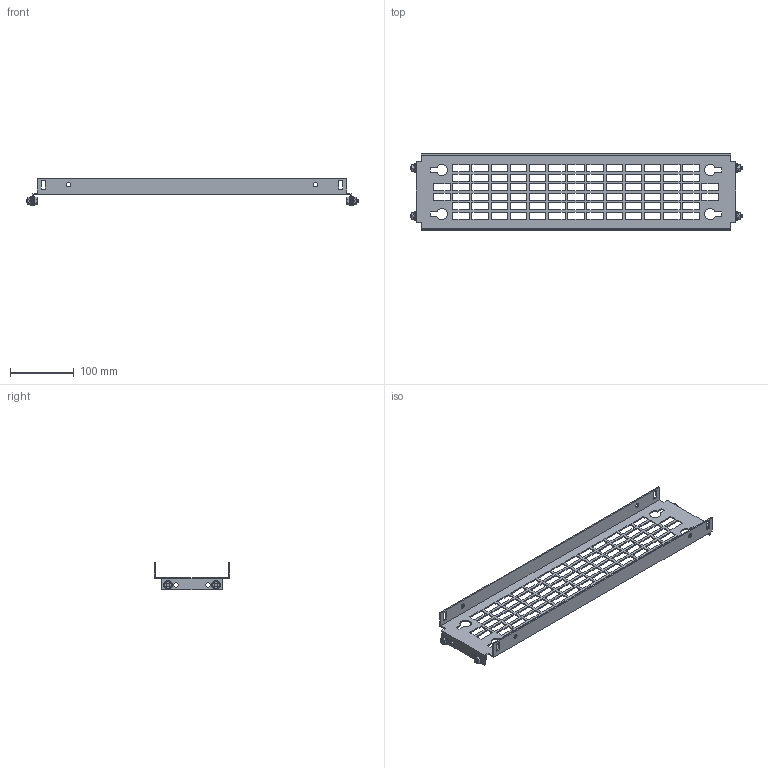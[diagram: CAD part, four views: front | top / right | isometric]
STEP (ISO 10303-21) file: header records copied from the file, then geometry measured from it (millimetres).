
FILE_DESCRIPTION(('Open CASCADE Model'),'2;1');
FILE_NAME('Open CASCADE Shape Model','2025-02-19T16:48:05',('Author'),( 'Open CASCADE'),'Open CASCADE STEP processor 7.8','Open CASCADE 7.8' ,'Unknown');
FILE_SCHEMA(('AUTOMOTIVE_DESIGN { 1 0 10303 214 1 1 1 1 }'));
Length unit declared in the file: millimetre
Products named in the file (4): Compound1; Solid1; Solid2; Solid3
Assembly tree (9 placements, depth 2):
  Compound1
    Solid1
    Solid2  x4
    Solid3  x4
Bounding box: 520 x 119 x 43 mm (x, y, z)
Volume: 125950.2 mm3; surface area: 141529.8 mm2
Topology: 9 solids, 9 shells, 618 faces, 1682 edges, 1086 vertices
Faces by surface type: plane 462, cone 68, bspline 48, cylinder 28, torus 12
Full cylindrical faces by diameter (mm): 5 x4, 6 x8, 7 x12
Entity records: 15856 total; most frequent: CARTESIAN_POINT 3295, ORIENTED_EDGE 2686, DIRECTION 2248, EDGE_CURVE 1343, LINE 1192, VECTOR 1192, VERTEX_POINT 888, FACE_BOUND 669
